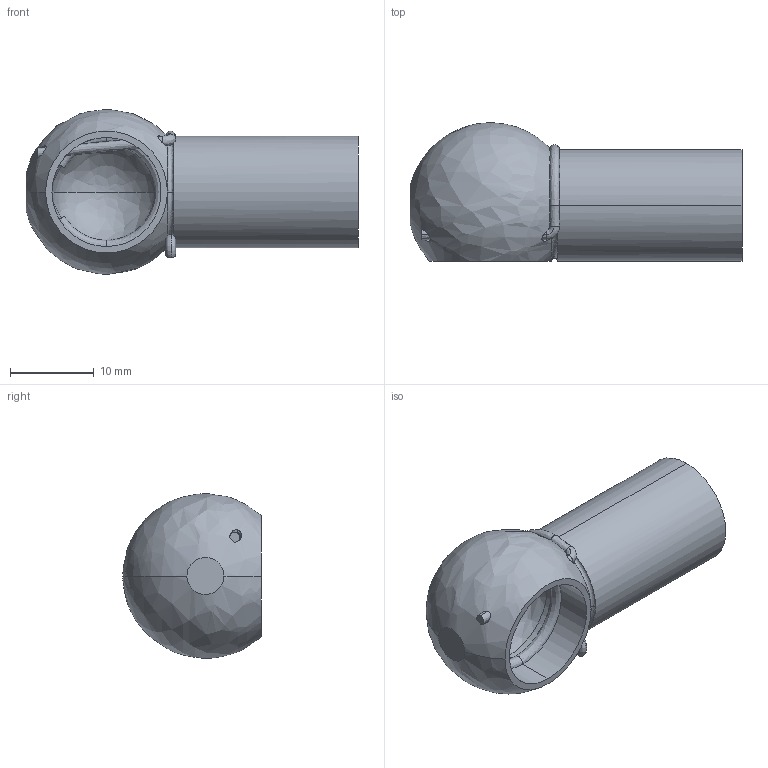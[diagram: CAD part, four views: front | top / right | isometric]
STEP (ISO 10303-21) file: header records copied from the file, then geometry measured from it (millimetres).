
FILE_DESCRIPTION (( 'STEP AP214' ), '1' );
FILE_NAME ('13.C13L30M8.STEP', '2017-10-27T12:57:17', ( '' ), ( '' ), 'SwSTEP 2.0', 'SolidWorks 2016', '' );
FILE_SCHEMA (( 'AUTOMOTIVE_DESIGN' ));
Length unit declared in the file: millimetre
Products named in the file (1): 13.C13L30M8
Bounding box: 39.6 x 16.5 x 19.7 mm (x, y, z)
Volume: 4666.3 mm3; surface area: 2984.7 mm2
Topology: 1 solids, 1 shells, 43 faces, 120 edges, 72 vertices
Faces by surface type: bspline 24, cylinder 8, plane 7, cone 4
Entity records: 7105 total; most frequent: CARTESIAN_POINT 6159, ORIENTED_EDGE 228, DIRECTION 142, EDGE_CURVE 114, VERTEX_POINT 72, AXIS2_PLACEMENT_3D 63, B_SPLINE_CURVE_WITH_KNOTS 53, EDGE_LOOP 48
